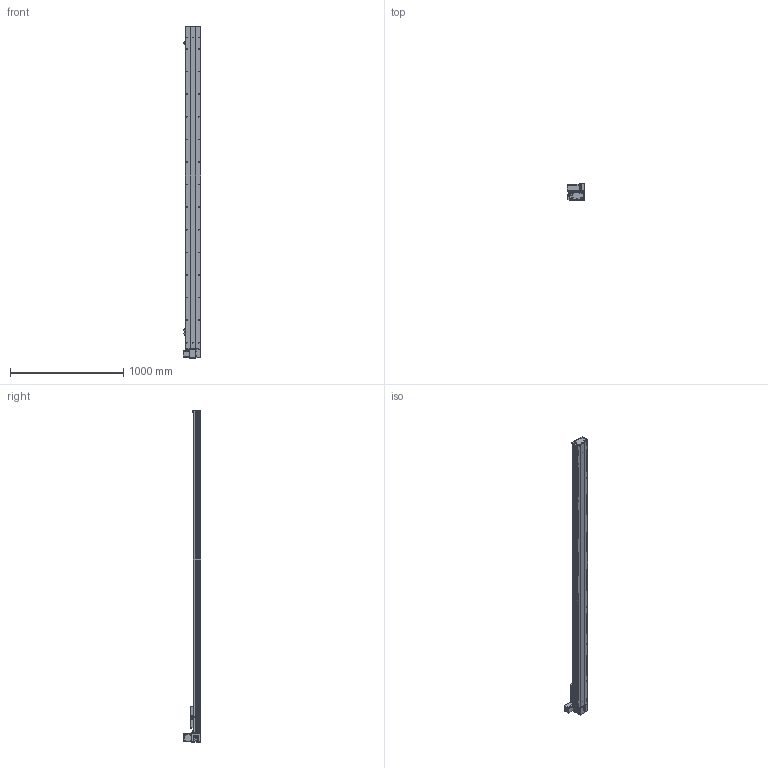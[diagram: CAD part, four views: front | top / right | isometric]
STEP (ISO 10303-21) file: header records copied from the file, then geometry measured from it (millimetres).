
FILE_DESCRIPTION (( 'STEP AP203' ), '1' );
FILE_NAME ('Y135CB-D90-S2550-UL-P400W.STEP', '2020-02-18T08:05:29', ( '微软用户' ), ( '微软中国' ), 'SwSTEP 2.0', 'SolidWorks 2017', '' );
FILE_SCHEMA (( 'CONFIG_CONTROL_DESIGN' ));
Length unit declared in the file: millimetre
Products named in the file (18): Y135CB-D90-S2550-UL-P400W; 135CB--詩湍-CE; 135CB---遴掛极.-; Y100-135俋离換覜ん--; 35CB---喘謫眊楊擘啣; Y135C-陔俋离換覜結え-; 0B-埴倛裔啣; 5C--俋欶; 0B-源倛裔啣; C-雄赽釱--; 0B-萇儂楊擘啣; Y10B-耜蚾蟀諉啣----; san松下电机400不带刹车----; 00B-俋欶BM--; 5CB --掛极耜裔啣-; Y10B--々湍喘謫眊--666; C-詩湍揤踡え-陔; Y135CB-耜裔
Assembly tree (21 placements, depth 2):
  Y135CB-D90-S2550-UL-P400W
    Y135CB-耜裔
    135CB---遴掛极.-
    35CB---喘謫眊楊擘啣
    0B-埴倛裔啣
    0B-源倛裔啣
    0B-萇儂楊擘啣
    san松下电机400不带刹车----
    5CB --掛极耜裔啣-  x2
    C-詩湍揤踡え-陔  x2
    135CB--詩湍-CE
    Y100-135俋离換覜ん--  x3
    Y135C-陔俋离換覜結え-
    5C--俋欶
    C-雄赽釱--
    Y10B-耜蚾蟀諉啣----
    00B-俋欶BM--
    Y10B--々湍喘謫眊--666
Bounding box: 157 x 158.7 x 2938 mm (x, y, z)
Volume: 8411608.2 mm3; surface area: 3332155.4 mm2
Topology: 21 solids, 21 shells, 977 faces, 2671 edges, 1770 vertices
Faces by surface type: cylinder 505, plane 456, cone 16
Entity records: 30965 total; most frequent: CARTESIAN_POINT 5164, DIRECTION 5147, ORIENTED_EDGE 4818, EDGE_CURVE 2409, AXIS2_PLACEMENT_3D 1889, VERTEX_POINT 1598, LINE 1369, VECTOR 1369
